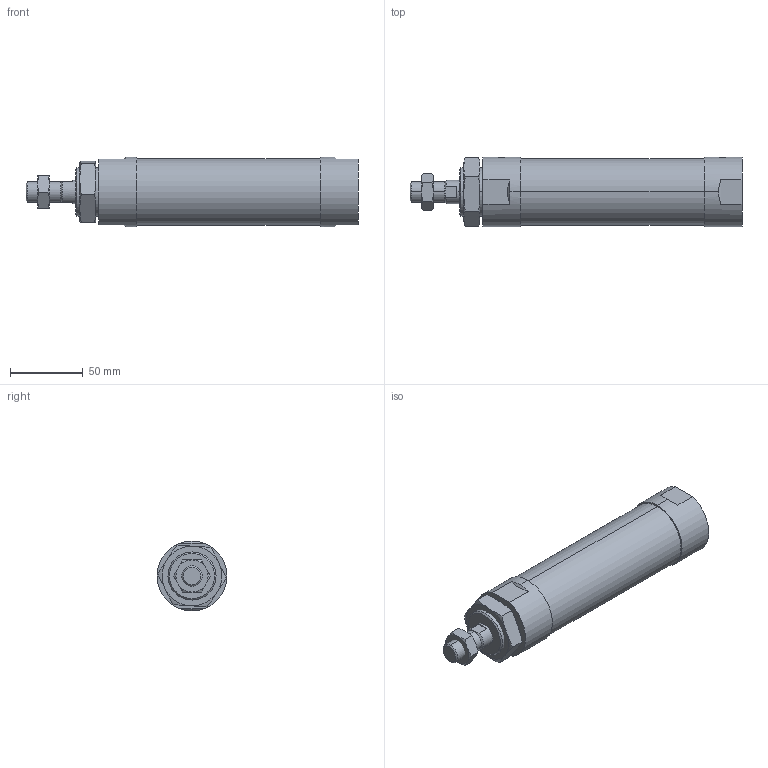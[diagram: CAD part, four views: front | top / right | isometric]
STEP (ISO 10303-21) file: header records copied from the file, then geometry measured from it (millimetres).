
FILE_DESCRIPTION (( 'STEP AP203' ), '1' );
FILE_NAME ('JGND2-40-75-N.STEP', '2016-08-04T03:07:06', ( '' ), ( '' ), 'SwSTEP 2.0', 'SolidWorks 2014', '' );
FILE_SCHEMA (( 'CONFIG_CONTROL_DESIGN' ));
Length unit declared in the file: millimetre
Products named in the file (4): JGND2-40-75-N; J#2-40-75(P)
Assembly tree (3 placements, depth 2):
  JGND2-40-75-N
    J#2-40-75(P)
    (unnamed)
    (unnamed)
Bounding box: 228 x 48 x 48 mm (x, y, z)
Volume: 328827.9 mm3; surface area: 39677.9 mm2
Topology: 3 solids, 3 shells, 89 faces, 200 edges, 119 vertices
Faces by surface type: plane 32, torus 24, cylinder 20, cone 13
Entity records: 3305 total; most frequent: CARTESIAN_POINT 1001, DIRECTION 395, ORIENTED_EDGE 392, EDGE_CURVE 196, AXIS2_PLACEMENT_3D 167, VERTEX_POINT 119, EDGE_LOOP 99, ADVANCED_FACE 89
